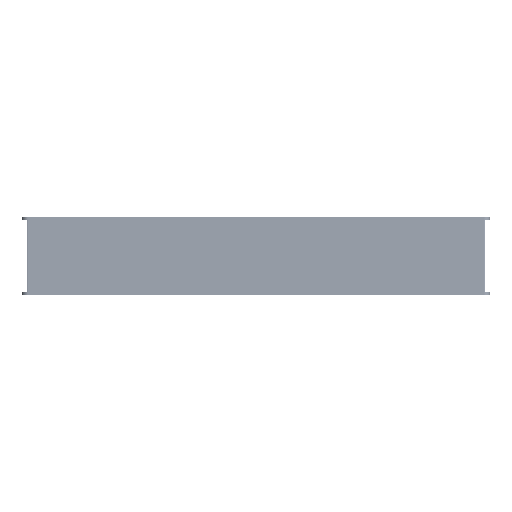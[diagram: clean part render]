
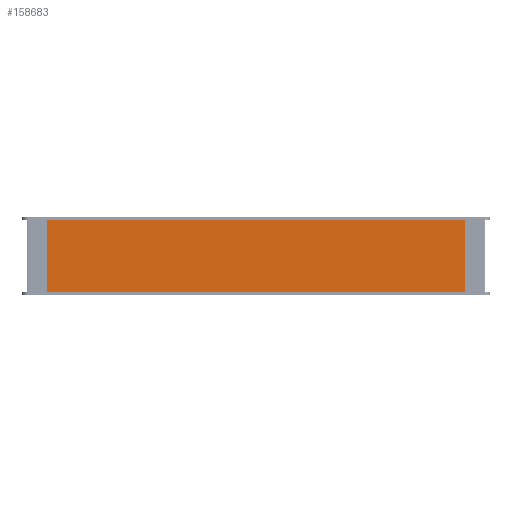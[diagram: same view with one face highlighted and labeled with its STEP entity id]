
A CAD part, left-side view. The second image highlights one B-rep face of the part: STEP entity #158683.
In plain terms, the highlighted planar face has unit normal (-1, 0, 0).
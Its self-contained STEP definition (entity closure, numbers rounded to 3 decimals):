
#3304 = VERTEX_POINT ( 'NONE', #90457 ) ;
#4677 = EDGE_CURVE ( 'NONE', #3304, #34731, #166350, .T. ) ;
#9619 = VECTOR ( 'NONE', #48383, 1000. ) ;
#17696 = CARTESIAN_POINT ( 'NONE',  ( -884.868, -406.483, 142.5 ) ) ;
#17934 = VECTOR ( 'NONE', #82824, 1000. ) ;
#25489 = EDGE_CURVE ( 'NONE', #34731, #148166, #98832, .T. ) ;
#34731 = VERTEX_POINT ( 'NONE', #35392 ) ;
#35392 = CARTESIAN_POINT ( 'NONE',  ( -884.868, 459.517, 2.5 ) ) ;
#48383 = DIRECTION ( 'NONE',  ( 0., 0., -1. ) ) ;
#51241 = EDGE_LOOP ( 'NONE', ( #51362, #156800, #52002, #179671 ) ) ;
#51362 = ORIENTED_EDGE ( 'NONE', *, *, #179452, .F. ) ;
#52002 = ORIENTED_EDGE ( 'NONE', *, *, #25489, .F. ) ;
#54311 = CARTESIAN_POINT ( 'NONE',  ( -884.868, 459.517, 2.5 ) ) ;
#56333 = CARTESIAN_POINT ( 'NONE',  ( -884.868, 26.517, 72.5 ) ) ;
#67289 = DIRECTION ( 'NONE',  ( -1., 0., 0. ) ) ;
#70017 = CARTESIAN_POINT ( 'NONE',  ( -884.868, 459.517, 142.5 ) ) ;
#82824 = DIRECTION ( 'NONE',  ( 0., -1., 0. ) ) ;
#90457 = CARTESIAN_POINT ( 'NONE',  ( -884.868, -406.483, 2.5 ) ) ;
#97048 = CARTESIAN_POINT ( 'NONE',  ( -884.868, 459.517, 142.5 ) ) ;
#98832 = LINE ( 'NONE', #97048, #128216 ) ;
#101675 = CARTESIAN_POINT ( 'NONE',  ( -884.868, 459.517, 142.5 ) ) ;
#103663 = VECTOR ( 'NONE', #150851, 1000. ) ;
#110668 = AXIS2_PLACEMENT_3D ( 'NONE', #56333, #67289, #178417 ) ;
#110991 = FACE_OUTER_BOUND ( 'NONE', #51241, .T. ) ;
#128216 = VECTOR ( 'NONE', #138895, 1000. ) ;
#131294 = LINE ( 'NONE', #173185, #9619 ) ;
#135214 = VERTEX_POINT ( 'NONE', #17696 ) ;
#138895 = DIRECTION ( 'NONE',  ( 0., 0., 1. ) ) ;
#148166 = VERTEX_POINT ( 'NONE', #101675 ) ;
#150222 = LINE ( 'NONE', #70017, #17934 ) ;
#150360 = EDGE_CURVE ( 'NONE', #148166, #135214, #150222, .T. ) ;
#150851 = DIRECTION ( 'NONE',  ( 0., 1., 0. ) ) ;
#156800 = ORIENTED_EDGE ( 'NONE', *, *, #150360, .F. ) ;
#158683 = ADVANCED_FACE ( 'NONE', ( #110991 ), #179270, .T. ) ;
#166350 = LINE ( 'NONE', #54311, #103663 ) ;
#173185 = CARTESIAN_POINT ( 'NONE',  ( -884.868, -406.483, 142.5 ) ) ;
#178417 = DIRECTION ( 'NONE',  ( 0., 1., 0. ) ) ;
#179270 = PLANE ( 'NONE',  #110668 ) ;
#179452 = EDGE_CURVE ( 'NONE', #135214, #3304, #131294, .T. ) ;
#179671 = ORIENTED_EDGE ( 'NONE', *, *, #4677, .F. ) ;
